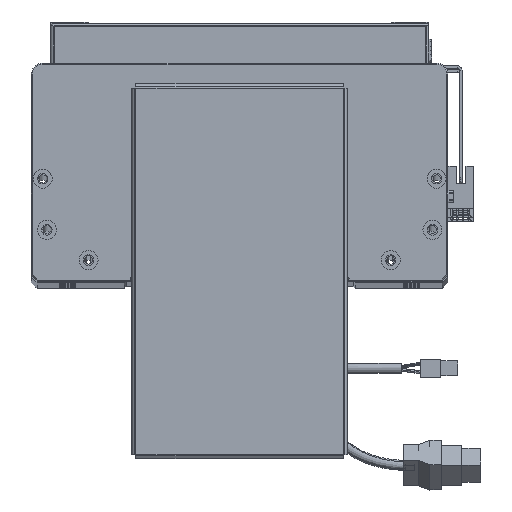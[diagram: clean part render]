
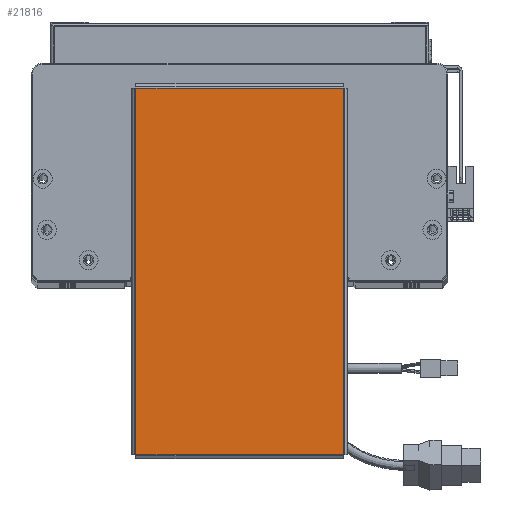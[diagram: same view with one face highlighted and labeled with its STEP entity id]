
A CAD part, top view. The second image highlights one B-rep face of the part: STEP entity #21816.
In plain terms, the highlighted planar face has unit normal (0, 0, 1).
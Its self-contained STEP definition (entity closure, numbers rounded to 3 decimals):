
#258 = VECTOR ( 'NONE', #16140, 1000. ) ;
#1871 = EDGE_CURVE ( 'NONE', #17265, #52743, #53331, .T. ) ;
#3277 = CARTESIAN_POINT ( 'NONE',  ( 96.763, 54.763, 0. ) ) ;
#4294 = LINE ( 'NONE', #46196, #64686 ) ;
#10493 = ORIENTED_EDGE ( 'NONE', *, *, #39889, .T. ) ;
#16140 = DIRECTION ( 'NONE',  ( 0., 1., 0. ) ) ;
#17265 = VERTEX_POINT ( 'NONE', #68232 ) ;
#17315 = CARTESIAN_POINT ( 'NONE',  ( 0., 0., 0. ) ) ;
#17611 = DIRECTION ( 'NONE',  ( 1., 0., 0. ) ) ;
#21126 = EDGE_CURVE ( 'NONE', #52743, #39971, #58898, .T. ) ;
#21327 = ORIENTED_EDGE ( 'NONE', *, *, #53500, .T. ) ;
#21816 = ADVANCED_FACE ( 'NONE', ( #43724 ), #33313, .T. ) ;
#21988 = VERTEX_POINT ( 'NONE', #55511 ) ;
#26486 = VECTOR ( 'NONE', #17611, 1000. ) ;
#27444 = CARTESIAN_POINT ( 'NONE',  ( 96.763, -54.793, 0. ) ) ;
#31043 = EDGE_LOOP ( 'NONE', ( #47336, #49612, #10493, #21327 ) ) ;
#33313 = PLANE ( 'NONE',  #45085 ) ;
#39889 = EDGE_CURVE ( 'NONE', #39971, #21988, #44945, .T. ) ;
#39971 = VERTEX_POINT ( 'NONE', #3277 ) ;
#43165 = CARTESIAN_POINT ( 'NONE',  ( 96.763, -54.763, 0. ) ) ;
#43724 = FACE_OUTER_BOUND ( 'NONE', #31043, .T. ) ;
#44139 = VECTOR ( 'NONE', #44401, 1000. ) ;
#44401 = DIRECTION ( 'NONE',  ( -1., 0., 0. ) ) ;
#44945 = LINE ( 'NONE', #50432, #44139 ) ;
#45085 = AXIS2_PLACEMENT_3D ( 'NONE', #17315, #65559, #64858 ) ;
#46196 = CARTESIAN_POINT ( 'NONE',  ( -96.763, 54.793, 0. ) ) ;
#47336 = ORIENTED_EDGE ( 'NONE', *, *, #1871, .T. ) ;
#49612 = ORIENTED_EDGE ( 'NONE', *, *, #21126, .T. ) ;
#50432 = CARTESIAN_POINT ( 'NONE',  ( 96.793, 54.763, 0. ) ) ;
#51781 = DIRECTION ( 'NONE',  ( 0., -1., 0. ) ) ;
#52743 = VERTEX_POINT ( 'NONE', #43165 ) ;
#53331 = LINE ( 'NONE', #54440, #26486 ) ;
#53500 = EDGE_CURVE ( 'NONE', #21988, #17265, #4294, .T. ) ;
#54440 = CARTESIAN_POINT ( 'NONE',  ( -96.793, -54.763, 0. ) ) ;
#55511 = CARTESIAN_POINT ( 'NONE',  ( -96.763, 54.763, 0. ) ) ;
#58898 = LINE ( 'NONE', #27444, #258 ) ;
#64686 = VECTOR ( 'NONE', #51781, 1000. ) ;
#64858 = DIRECTION ( 'NONE',  ( 1., 0., 0. ) ) ;
#65559 = DIRECTION ( 'NONE',  ( 0., 0., 1. ) ) ;
#68232 = CARTESIAN_POINT ( 'NONE',  ( -96.763, -54.763, 0. ) ) ;
